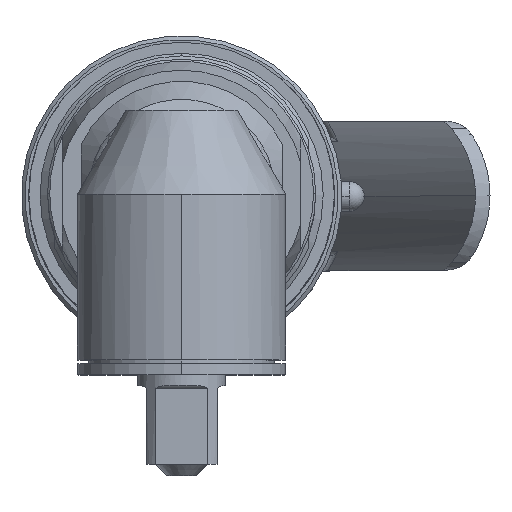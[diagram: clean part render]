
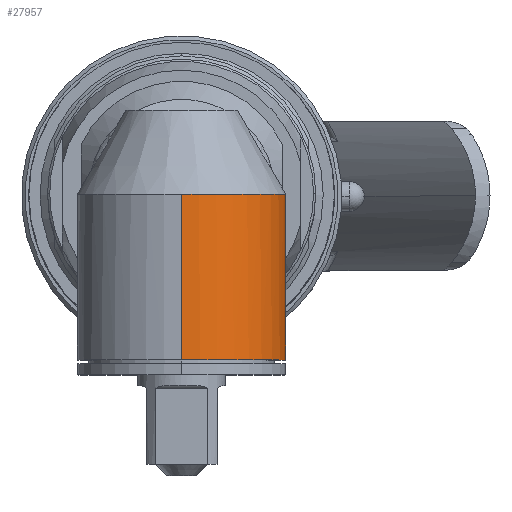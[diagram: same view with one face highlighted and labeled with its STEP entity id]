
A CAD part, top view. The second image highlights one B-rep face of the part: STEP entity #27957.
In plain terms, the highlighted cylindrical face has radius 14 mm (diameter 28 mm), a partial arc.
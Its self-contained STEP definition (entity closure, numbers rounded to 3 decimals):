
#11757 =( BOUNDED_CURVE ( )  B_SPLINE_CURVE ( 3, ( #12058, #12057, #12056, #12055 ),
 .UNSPECIFIED., .F., .T. ) 
 B_SPLINE_CURVE_WITH_KNOTS ( ( 4, 4 ),
 ( 0., 0.29 ),
 .UNSPECIFIED. ) 
 CURVE ( )  GEOMETRIC_REPRESENTATION_ITEM ( )  RATIONAL_B_SPLINE_CURVE ( ( 1., 0.993, 0.993, 1. ) ) 
 REPRESENTATION_ITEM ( '' )  );
#11904 = CARTESIAN_POINT ( 'NONE',  ( 0., -22.5, 14. ) ) ;
#11912 = CARTESIAN_POINT ( 'NONE',  ( 0., -22.5, -14. ) ) ;
#11946 = CARTESIAN_POINT ( 'NONE',  ( 0., -18., -14. ) ) ;
#11971 = DIRECTION ( 'NONE',  ( 0., 0., 1. ) ) ;
#11972 = DIRECTION ( 'NONE',  ( 0., 1., 0. ) ) ;
#11973 = AXIS2_PLACEMENT_3D ( 'NONE', #11976, #11972, #11971 ) ;
#11974 = CYLINDRICAL_SURFACE ( 'NONE', #11973, 14. ) ;
#11976 = CARTESIAN_POINT ( 'NONE',  ( 0., 18.453, 0. ) ) ;
#11977 = DIRECTION ( 'NONE',  ( 0., 0., 1. ) ) ;
#11978 = DIRECTION ( 'NONE',  ( 0., 1., 0. ) ) ;
#11979 = CARTESIAN_POINT ( 'NONE',  ( 0., -22.5, 0. ) ) ;
#11980 = AXIS2_PLACEMENT_3D ( 'NONE', #11979, #11978, #11977 ) ;
#11981 = CIRCLE ( 'NONE', #11980, 14. ) ;
#11982 = FACE_OUTER_BOUND ( 'NONE', #26262, .T. ) ;
#11999 = DIRECTION ( 'NONE',  ( 0., -1., 0. ) ) ;
#12000 = VECTOR ( 'NONE', #11999, 1000. ) ;
#12002 = CARTESIAN_POINT ( 'NONE',  ( 4., 18.453, -13.416 ) ) ;
#12003 = LINE ( 'NONE', #12002, #12000 ) ;
#12004 = CARTESIAN_POINT ( 'NONE',  ( 4., -18.337, -13.416 ) ) ;
#12005 = CARTESIAN_POINT ( 'NONE',  ( 4., -11.843, -13.416 ) ) ;
#12010 = CARTESIAN_POINT ( 'NONE',  ( 12.497, -0.258, -6.31 ) ) ;
#12011 = DIRECTION ( 'NONE',  ( 0., 0., 1. ) ) ;
#12012 = DIRECTION ( 'NONE',  ( 0., 1., 0. ) ) ;
#12013 = CARTESIAN_POINT ( 'NONE',  ( 0., -0.258, 0. ) ) ;
#12014 = AXIS2_PLACEMENT_3D ( 'NONE', #12013, #12012, #12011 ) ;
#12015 = CIRCLE ( 'NONE', #12014, 14. ) ;
#12016 = CARTESIAN_POINT ( 'NONE',  ( 0., -0.258, 14. ) ) ;
#12017 = DIRECTION ( 'NONE',  ( 0., 1., 0. ) ) ;
#12018 = VECTOR ( 'NONE', #12017, 1000. ) ;
#12019 = CARTESIAN_POINT ( 'NONE',  ( 0., 18.453, 14. ) ) ;
#12020 = LINE ( 'NONE', #12019, #12018 ) ;
#12033 = CARTESIAN_POINT ( 'NONE',  ( 5.26, -11.345, -12.979 ) ) ;
#12034 = CARTESIAN_POINT ( 'NONE',  ( 4.642, -11.611, -13.212 ) ) ;
#12035 = CARTESIAN_POINT ( 'NONE',  ( 4.323, -11.734, -13.32 ) ) ;
#12036 = CARTESIAN_POINT ( 'NONE',  ( 4., -11.843, -13.416 ) ) ;
#12037 = B_SPLINE_CURVE_WITH_KNOTS ( 'NONE', 3,
 ( #12036, #12035, #12034, #12033, #12091, #12090, #12089, #12088, #12087, #12086, #12085, #12084, #12083, #12082, #12081, #12080, #12079, #12078, #12077, #12076, #12075, #12074, #12073, #12072, #12071, #12070 ),
 .UNSPECIFIED., .F., .F.,
 ( 4, 2, 2, 2, 2, 2, 2, 2, 2, 2, 2, 2, 4 ),
 ( 0.025, 0.026, 0.027, 0.029, 0.03, 0.032, 0.034, 0.036, 0.038, 0.039, 0.04, 0.041, 0.042 ),
 .UNSPECIFIED. ) ;
#12045 = DIRECTION ( 'NONE',  ( 0., 1., 0. ) ) ;
#12046 = VECTOR ( 'NONE', #12045, 1000. ) ;
#12047 = CARTESIAN_POINT ( 'NONE',  ( 0., 18.453, -14. ) ) ;
#12048 = LINE ( 'NONE', #12047, #12046 ) ;
#12055 = CARTESIAN_POINT ( 'NONE',  ( 4., -18.337, -13.416 ) ) ;
#12056 = CARTESIAN_POINT ( 'NONE',  ( 2.7, -18.113, -13.804 ) ) ;
#12057 = CARTESIAN_POINT ( 'NONE',  ( 1.357, -18., -14. ) ) ;
#12058 = CARTESIAN_POINT ( 'NONE',  ( 0., -18., -14. ) ) ;
#12070 = CARTESIAN_POINT ( 'NONE',  ( 12.497, -0.258, -6.31 ) ) ;
#12071 = CARTESIAN_POINT ( 'NONE',  ( 12.49, -0.617, -6.325 ) ) ;
#12072 = CARTESIAN_POINT ( 'NONE',  ( 12.467, -0.974, -6.371 ) ) ;
#12073 = CARTESIAN_POINT ( 'NONE',  ( 12.393, -1.666, -6.512 ) ) ;
#12074 = CARTESIAN_POINT ( 'NONE',  ( 12.343, -2.002, -6.608 ) ) ;
#12075 = CARTESIAN_POINT ( 'NONE',  ( 12.218, -2.66, -6.836 ) ) ;
#12076 = CARTESIAN_POINT ( 'NONE',  ( 12.143, -2.984, -6.97 ) ) ;
#12077 = CARTESIAN_POINT ( 'NONE',  ( 11.972, -3.611, -7.26 ) ) ;
#12078 = CARTESIAN_POINT ( 'NONE',  ( 11.876, -3.914, -7.417 ) ) ;
#12079 = CARTESIAN_POINT ( 'NONE',  ( 11.559, -4.799, -7.908 ) ) ;
#12080 = CARTESIAN_POINT ( 'NONE',  ( 11.31, -5.357, -8.264 ) ) ;
#12081 = CARTESIAN_POINT ( 'NONE',  ( 10.736, -6.432, -8.998 ) ) ;
#12082 = CARTESIAN_POINT ( 'NONE',  ( 10.413, -6.941, -9.372 ) ) ;
#12083 = CARTESIAN_POINT ( 'NONE',  ( 9.701, -7.906, -10.107 ) ) ;
#12084 = CARTESIAN_POINT ( 'NONE',  ( 9.31, -8.363, -10.471 ) ) ;
#12085 = CARTESIAN_POINT ( 'NONE',  ( 8.666, -9.014, -10.999 ) ) ;
#12086 = CARTESIAN_POINT ( 'NONE',  ( 8.441, -9.225, -11.173 ) ) ;
#12087 = CARTESIAN_POINT ( 'NONE',  ( 7.971, -9.634, -11.513 ) ) ;
#12088 = CARTESIAN_POINT ( 'NONE',  ( 7.725, -9.833, -11.68 ) ) ;
#12089 = CARTESIAN_POINT ( 'NONE',  ( 6.964, -10.399, -12.16 ) ) ;
#12090 = CARTESIAN_POINT ( 'NONE',  ( 6.424, -10.743, -12.455 ) ) ;
#12091 = CARTESIAN_POINT ( 'NONE',  ( 5.558, -11.201, -12.853 ) ) ;
#26252 = ORIENTED_EDGE ( 'NONE', *, *, #33159, .T. ) ;
#26255 = VERTEX_POINT ( 'NONE', #11912 ) ;
#26261 = VERTEX_POINT ( 'NONE', #11904 ) ;
#26262 = EDGE_LOOP ( 'NONE', ( #27283, #26252, #33160, #33153, #33151, #33145, #33146 ) ) ;
#27062 = VERTEX_POINT ( 'NONE', #11946 ) ;
#27283 = ORIENTED_EDGE ( 'NONE', *, *, #27359, .T. ) ;
#27359 = EDGE_CURVE ( 'NONE', #26261, #26255, #11981, .T. ) ;
#27957 = ADVANCED_FACE ( 'NONE', ( #11982 ), #11974, .T. ) ;
#33143 = EDGE_CURVE ( 'NONE', #26261, #33144, #12020, .T. ) ;
#33144 = VERTEX_POINT ( 'NONE', #12016 ) ;
#33145 = ORIENTED_EDGE ( 'NONE', *, *, #33147, .F. ) ;
#33146 = ORIENTED_EDGE ( 'NONE', *, *, #33143, .F. ) ;
#33147 = EDGE_CURVE ( 'NONE', #33144, #33148, #12015, .T. ) ;
#33148 = VERTEX_POINT ( 'NONE', #12010 ) ;
#33151 = ORIENTED_EDGE ( 'NONE', *, *, #33164, .T. ) ;
#33152 = VERTEX_POINT ( 'NONE', #12005 ) ;
#33153 = ORIENTED_EDGE ( 'NONE', *, *, #33155, .F. ) ;
#33154 = VERTEX_POINT ( 'NONE', #12004 ) ;
#33155 = EDGE_CURVE ( 'NONE', #33152, #33154, #12003, .T. ) ;
#33156 = EDGE_CURVE ( 'NONE', #27062, #33154, #11757, .T. ) ;
#33159 = EDGE_CURVE ( 'NONE', #26255, #27062, #12048, .T. ) ;
#33160 = ORIENTED_EDGE ( 'NONE', *, *, #33156, .T. ) ;
#33164 = EDGE_CURVE ( 'NONE', #33152, #33148, #12037, .T. ) ;
